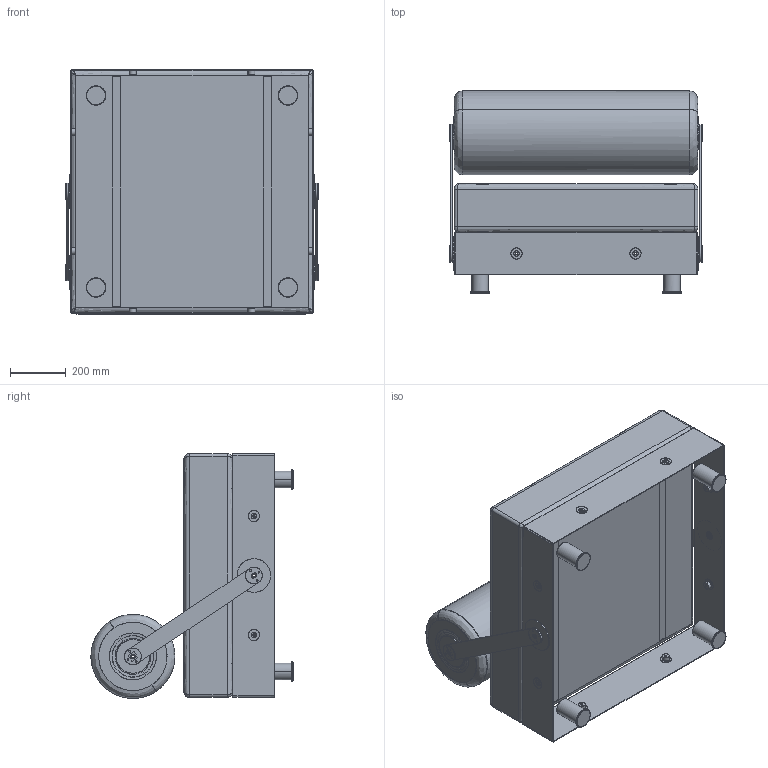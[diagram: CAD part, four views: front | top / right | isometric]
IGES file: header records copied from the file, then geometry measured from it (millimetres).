
Start section: SolidWorks IGES file using analytic representation for surfaces
Global section: file name: C:\Users\cersim\OneDrive - Gruppo Tecno\Desktop\MARKETING\TODO MODO - con rullo.IGS; native system: SolidWorks 2020; preprocessor: SolidWorks 2020; author: cersim; date: 210608.094735; units: millimetre
Bounding box: 901 x 722.26 x 874.51 mm (x, y, z)
Surface area: 5391597.5 mm2 (no closed solid volume)
Topology: 0 solids, 0 shells, 442 faces, 10084 edges, 10076 vertices
Faces by surface type: bspline 442
